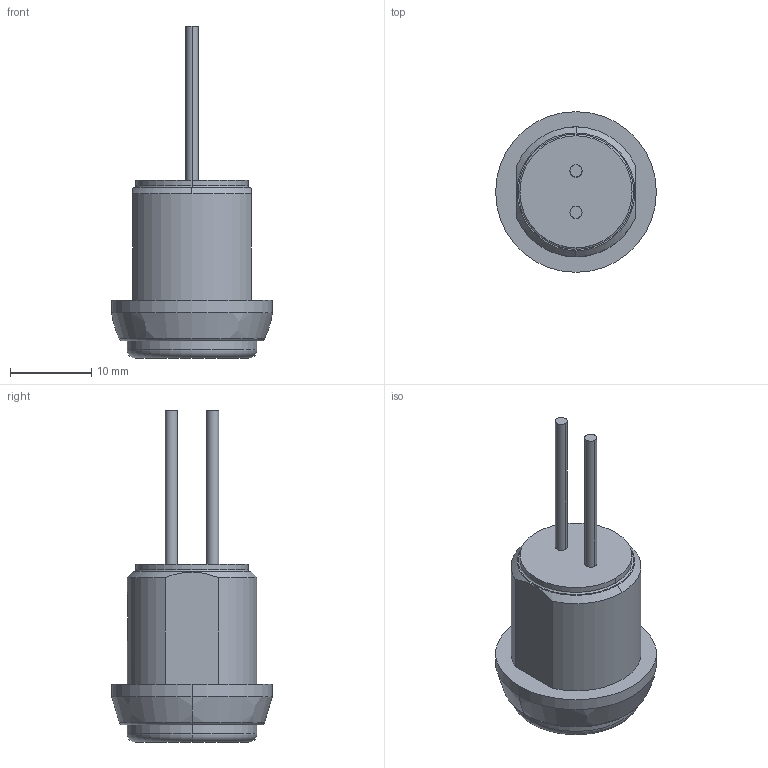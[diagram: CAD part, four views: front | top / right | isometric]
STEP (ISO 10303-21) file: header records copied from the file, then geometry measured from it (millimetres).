
FILE_DESCRIPTION((''),'2;1');
FILE_NAME('IRP3F4','2011-04-13T',('francis'),(''),'PRO/ENGINEER BY PARAMETRIC TECHNOLOGY CORPORATION, 2009440','PRO/ENGINEER BY PARAMETRIC TECHNOLOGY CORPORATION, 2009440','');
FILE_SCHEMA(('CONFIG_CONTROL_DESIGN'));
Length unit declared in the file: inch
Products named in the file (1): IRP3F4
Bounding box: 19.8 x 19.8 x 40.9 mm (x, y, z)
Volume: 2653.3 mm3; surface area: 3812.8 mm2
Topology: 2 solids, 2 shells, 167 faces, 414 edges, 270 vertices
Faces by surface type: plane 109, cylinder 35, cone 15, torus 6, bspline 2
Entity records: 5061 total; most frequent: CARTESIAN_POINT 965, DIRECTION 847, ORIENTED_EDGE 828, EDGE_CURVE 414, VECTOR 291, LINE 291, AXIS2_PLACEMENT_3D 278, VERTEX_POINT 270
